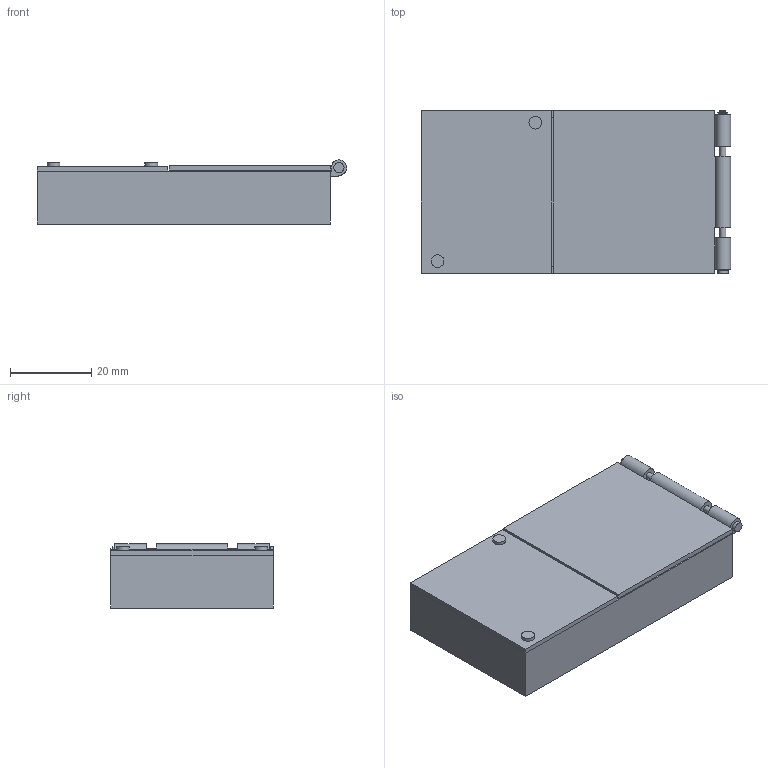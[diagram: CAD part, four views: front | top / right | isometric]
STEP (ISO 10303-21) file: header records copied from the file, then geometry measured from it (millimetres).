
FILE_DESCRIPTION(('Open CASCADE Model'),'2;1');
FILE_NAME('Consumer electronics assembly','2026-11-19T17:25:14',( 'Author'),('Open CASCADE'),'Open CASCADE STEP processor 7.8', 'build123d','Unknown');
FILE_SCHEMA(('AUTOMOTIVE_DESIGN { 1 0 10303 214 1 1 1 1 }'));
Length unit declared in the file: millimetre
Products named in the file (17): Consumer electronics assembly; body; fixed_cover; battery_lid; hinge_pin; pin_clip; pcb; battery; snap_cradle; lift_pad; eject_spring; panel_screw_1; panel_screw_2; cradle_screw_1; cradle_screw_2; pcb_screw_1; pcb_screw_2
Assembly tree (16 placements, depth 2):
  Consumer electronics assembly
    body
    fixed_cover
    battery_lid
    hinge_pin
    pin_clip
    pcb
    battery
    snap_cradle
    lift_pad
    eject_spring
    panel_screw_1
    panel_screw_2
    cradle_screw_1
    cradle_screw_2
    pcb_screw_1
    pcb_screw_2
Bounding box: 76 x 40 x 15.75 mm (x, y, z)
Volume: 17276.4 mm3; surface area: 24360 mm2
Topology: 16 solids, 16 shells, 159 faces, 327 edges, 218 vertices
Faces by surface type: plane 117, cylinder 41, bspline 1
Full cylindrical faces by diameter (mm): 1.1 x1, 1.5 x2, 1.6 x6, 1.66 x6, 1.8 x3, 1.9 x6, 2.5 x1, 3.1 x6, 3.7 x2, 4 x1
Entity records: 9091 total; most frequent: CARTESIAN_POINT 1792, DIRECTION 1320, LINE 731, VECTOR 731, ORIENTED_EDGE 654, PCURVE 654, DEFINITIONAL_REPRESENTATION 654, EDGE_CURVE 327
